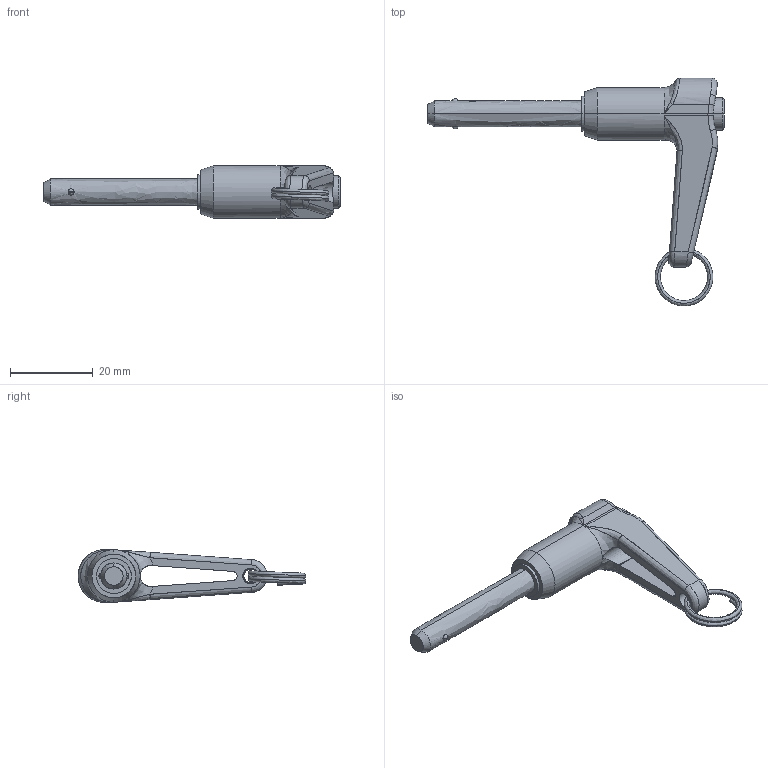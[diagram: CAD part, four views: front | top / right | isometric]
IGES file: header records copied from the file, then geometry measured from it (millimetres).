
Start section: SolidWorks IGES file using analytic representation for surfaces
Global section: file name: C:\Documents and Settings\IANO\My Documents\Wix and Auto CAD Work\CAD Models\Parametric Models\Wix Models\30000\33620_v2\33620_v2_20160606_IGES\33620.B012.igs; native system: SolidWorks 2009; preprocessor: SolidWorks 2009; author: IANO; date: 160615.125646; units: inch
Bounding box: 71.72 x 55.09 x 12.7 mm (x, y, z)
Surface area: 5446.1 mm2 (no closed solid volume)
Topology: 0 solids, 0 shells, 83 faces, 1170 edges, 1168 vertices
Faces by surface type: bspline 53, revolution 30
